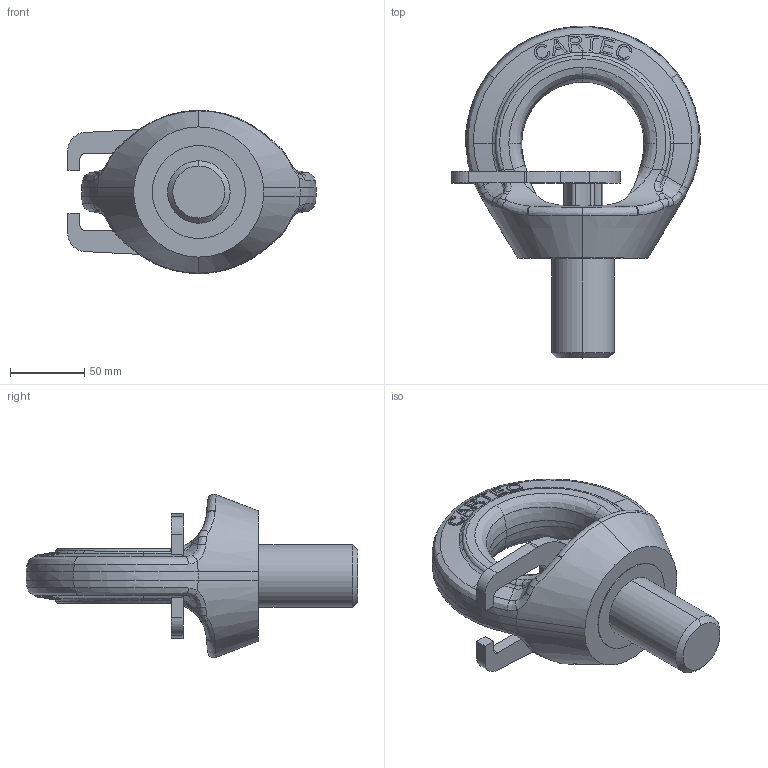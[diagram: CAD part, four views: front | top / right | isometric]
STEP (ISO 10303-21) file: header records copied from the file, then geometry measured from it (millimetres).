
FILE_DESCRIPTION(('STEP AP214'),'1');
FILE_NAME('c807ht42.stp','2017-03-27T13:39:29',('TraceParts'),('TraceParts S.A.'),'Spatial InterOp 3D',' ',' ');
FILE_SCHEMA(('automotive_design'));
Length unit declared in the file: millimetre
Products named in the file (3): c807ht42_1; c807ht42_2; c807ht42_3
Bounding box: 166.8 x 222.97 x 109.61 mm (x, y, z)
Volume: 746477.6 mm3; surface area: 105816.8 mm2
Topology: 3 solids, 3 shells, 398 faces, 1047 edges, 668 vertices
Faces by surface type: bspline 189, plane 126, cylinder 63, cone 12, torus 8
Entity records: 43647 total; most frequent: CARTESIAN_POINT 31798, ORIENTED_EDGE 2082, DIRECTION 1356, EDGE_CURVE 1041, VERTEX_POINT 668, AXIS2_PLACEMENT_3D 489, EDGE_LOOP 421, STYLED_ITEM 401
